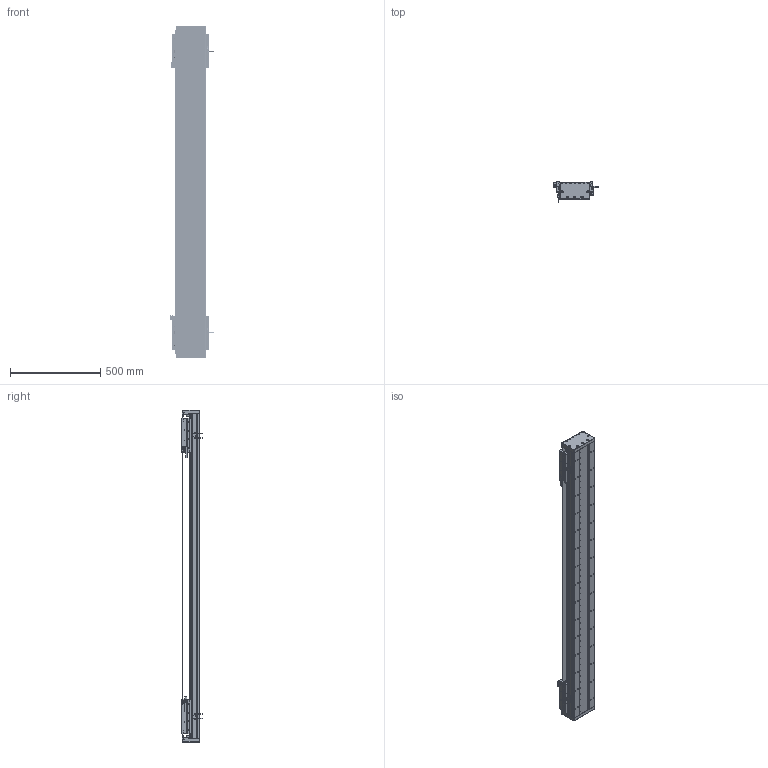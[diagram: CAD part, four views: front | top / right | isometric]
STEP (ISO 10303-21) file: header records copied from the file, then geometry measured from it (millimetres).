
FILE_DESCRIPTION (( 'STEP AP203' ), '1' );
FILE_NAME ('DA-C165-2-C2-T1340-C010-0.2 直线电机.STEP', '2023-05-11T08:21:42', ( '微软用户' ), ( '微软中国' ), 'SwSTEP 2.0', 'SolidWorks 2019', '' );
FILE_SCHEMA (( 'CONFIG_CONTROL_DESIGN' ));
Length unit declared in the file: millimetre
Products named in the file (22): 复件 六角薄螺母 M3^DA-C165-C2-T-C010-0.2-N 直线电机_GB_FASTENER_NUT_STNAB M3-C; 葩璃 DA95-GT-T-00^IU-CU165-L 菁釱絳寢_T; 复件 DKW-HXJ-JY-00 缓冲橡胶^DA-C165-C2-T-C010-0.2-N 直线电机; 复件 66338-1000-006-00 光电感应块^DA-C165-C2-T-C010-0.2-N 直线电机; 复件 DA165-GDLK-00 钢带拉块^复件 CU165钢带组件_DA-C165-C2-T-C010-0.2-N 直线电机; 葩璃 PM-Y45^DA-C165-C2-T-C010-0.2-N 眻盄萇儂; 复件 DA165-GD-1860-002-00 钢带盖板^复件 CU165钢带组件_DA-C165-C2-T-C010-0.2-N 直线电机; 复件 CKM02-W075-C1C2-TP-3.0 一体电机-C2^DA-C165-C2-T-C010-0.2-N 直线电机; IU-CU165-L 菁釱絳寢; 葩璃 PM-T45^DA-C165-C2-T-C010-0.2-N 眻盄萇儂; 复件 DA165-GD-DG-H-00 端盖^复件 CU165钢带组件_DA-C165-C2-T-C010-0.2-N 直线电机; 复件 DA165-GDYK-00 钢带压块^复件 CU165钢带组件_DA-C165-C2-T-C010-0.2-N 直线电机; 复件 DA95-HXJ-00 缓冲橡胶^DA-C165-C2-T-C010-0.2-N 直线电机; 复件 DA165-GYP-00 光电感应片^DA-C165-C2-T-C010-0.2-N 直线电机; 复件 XD-U-02L 磁栅尺^DA-C165-C2-T-C010-0.2-N 直线电机_T; 复件 DA126-GYP-ZJ-00 中间光电感应片^DA-C165-C2-T-C010-0.2-N 直线电机; DA-C165-2-C2-T1340-C010-0.2 眻盄萇儂; 葩璃 CKM01-W075-TRL^DA-C165-C2-T-C010-0.2-N 眻盄萇儂; 复件 CU165钢带组件^DA-C165-C2-T-C010-0.2-N 直线电机; IU-CU165-L-00 菁釱_L1800; 复件 DMA-010-0.2 读数头^DA-C165-C2-T-C010-0.2-N 直线电机; 珨极趙賑雄怢啣wf-C2
Assembly tree (43 placements, depth 3):
  DA-C165-2-C2-T1340-C010-0.2 眻盄萇儂
    IU-CU165-L 菁釱絳寢
      IU-CU165-L-00 菁釱_L1800
      葩璃 DA95-GT-T-00^IU-CU165-L 菁釱絳寢_T  x4
    复件 XD-U-02L 磁栅尺^DA-C165-C2-T-C010-0.2-N 直线电机_T
    葩璃 PM-T45^DA-C165-C2-T-C010-0.2-N 眻盄萇儂  x4
    葩璃 CKM01-W075-TRL^DA-C165-C2-T-C010-0.2-N 眻盄萇儂
    复件 CU165钢带组件^DA-C165-C2-T-C010-0.2-N 直线电机
      复件 DA165-GD-DG-H-00 端盖^复件 CU165钢带组件_DA-C165-C2-T-C010-0.2-N 直线电机  x2
      复件 DA165-GDYK-00 钢带压块^复件 CU165钢带组件_DA-C165-C2-T-C010-0.2-N 直线电机  x2
      复件 DA165-GD-1860-002-00 钢带盖板^复件 CU165钢带组件_DA-C165-C2-T-C010-0.2-N 直线电机
      复件 DA165-GDLK-00 钢带拉块^复件 CU165钢带组件_DA-C165-C2-T-C010-0.2-N 直线电机  x2
    复件 DA95-HXJ-00 缓冲橡胶^DA-C165-C2-T-C010-0.2-N 直线电机  x4
    复件 CKM02-W075-C1C2-TP-3.0 一体电机-C2^DA-C165-C2-T-C010-0.2-N 直线电机  x2
    复件 DMA-010-0.2 读数头^DA-C165-C2-T-C010-0.2-N 直线电机  x2
    复件 DA165-GYP-00 光电感应片^DA-C165-C2-T-C010-0.2-N 直线电机  x2
    复件 66338-1000-006-00 光电感应块^DA-C165-C2-T-C010-0.2-N 直线电机
    葩璃 PM-Y45^DA-C165-C2-T-C010-0.2-N 眻盄萇儂
    复件 DA126-GYP-ZJ-00 中间光电感应片^DA-C165-C2-T-C010-0.2-N 直线电机
    复件 DKW-HXJ-JY-00 缓冲橡胶^DA-C165-C2-T-C010-0.2-N 直线电机  x2
    复件 六角薄螺母 M3^DA-C165-C2-T-C010-0.2-N 直线电机_GB_FASTENER_NUT_STNAB M3-C  x6
    珨极趙賑雄怢啣wf-C2  x2
Bounding box: 247.2 x 111.45 x 1840 mm (x, y, z)
Volume: 12451848 mm3; surface area: 3486268.5 mm2
Topology: 119 solids, 119 shells, 5255 faces, 14372 edges, 9006 vertices
Faces by surface type: cylinder 2684, plane 1779, cone 704, torus 80, sphere 8
Entity records: 115816 total; most frequent: CARTESIAN_POINT 28949, ORIENTED_EDGE 17688, DIRECTION 17524, EDGE_CURVE 8844, AXIS2_PLACEMENT_3D 6606, VERTEX_POINT 5743, LINE 4312, VECTOR 4312
